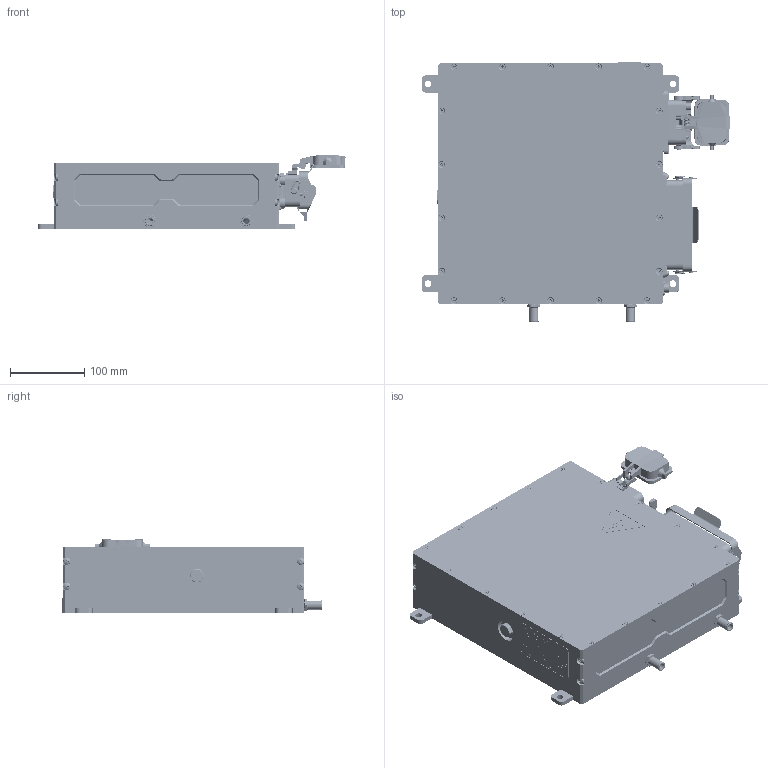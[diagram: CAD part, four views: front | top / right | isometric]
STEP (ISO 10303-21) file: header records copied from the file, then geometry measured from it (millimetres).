
FILE_DESCRIPTION(('CATIA V5 STEP Exchange','CAx-IF Rec.Pracs.--- Composite Materials ---3.4---2017-06-13'),'2;1');
FILE_NAME('C:\Users\rukle\Desktop\Тяговые инвертора на сайт\NTPI-360_600-50\Инвертор тяговый NTPI-360_600-50.stp','2025-11-01T14:00:50+00:00',('none'),('none'),'CATIA Version 5-6 Release 2021 SP7','CATIA V5 STEP AP203 v2','none');
FILE_SCHEMA(('CONFIG_CONTROL_DESIGN'));
Products named in the file (1): Инвертор тяговый NTPI-360_600-50
Bounding box: 415.73 x 351 x 99.39 mm (x, y, z)
Volume: 2781234.8 mm3; surface area: 964923.8 mm2
Topology: 136 solids, 142 shells, 9771 faces, 26099 edges, 16980 vertices
Faces by surface type: plane 4323, bspline 2114, cylinder 1969, cone 1093, torus 198, sphere 44, revolution 30
Entity records: 394754 total; most frequent: CARTESIAN_POINT 187304, ORIENTED_EDGE 51520, DIRECTION 26807, EDGE_CURVE 25774, VERTEX_POINT 16978, VECTOR 12705, LINE 12705, EDGE_LOOP 10819
